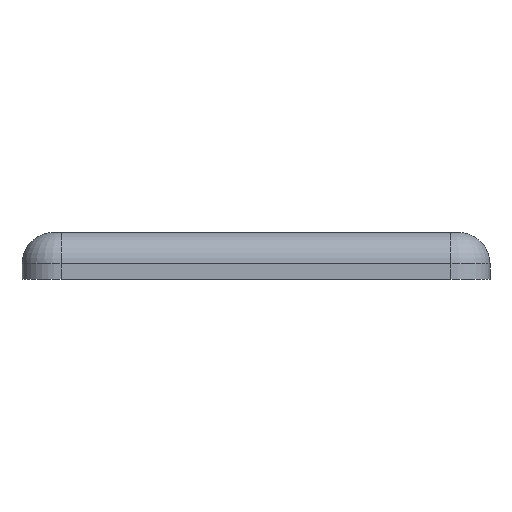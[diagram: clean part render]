
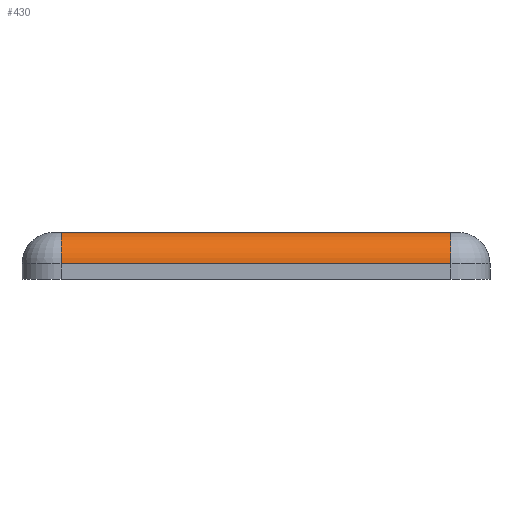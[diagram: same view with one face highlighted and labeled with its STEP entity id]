
A CAD part, front view. The second image highlights one B-rep face of the part: STEP entity #430.
In plain terms, the highlighted cylindrical face has radius 2 mm (diameter 4 mm), a partial arc.
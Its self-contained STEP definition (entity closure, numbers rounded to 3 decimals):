
#250 = EDGE_CURVE ( 'NONE', #434, #4314, #7528, .T. ) ;
#348 = FACE_OUTER_BOUND ( 'NONE', #1383, .T. ) ;
#430 = ADVANCED_FACE ( 'NONE', ( #348 ), #3017, .T. ) ;
#434 = VERTEX_POINT ( 'NONE', #6693 ) ;
#582 = VERTEX_POINT ( 'NONE', #8021 ) ;
#768 = CARTESIAN_POINT ( 'NONE',  ( -15., -15., 1. ) ) ;
#1179 = VECTOR ( 'NONE', #7634, 1000. ) ;
#1383 = EDGE_LOOP ( 'NONE', ( #6987, #7913, #1717, #2461 ) ) ;
#1717 = ORIENTED_EDGE ( 'NONE', *, *, #3543, .F. ) ;
#1899 = CARTESIAN_POINT ( 'NONE',  ( 0., -13., 3. ) ) ;
#2334 = AXIS2_PLACEMENT_3D ( 'NONE', #3259, #6440, #7790 ) ;
#2461 = ORIENTED_EDGE ( 'NONE', *, *, #9788, .F. ) ;
#2815 = CARTESIAN_POINT ( 'NONE',  ( 12.5, -13., 3. ) ) ;
#3017 = CYLINDRICAL_SURFACE ( 'NONE', #5289, 2. ) ;
#3196 = VERTEX_POINT ( 'NONE', #9335 ) ;
#3259 = CARTESIAN_POINT ( 'NONE',  ( -12.5, -13., 1. ) ) ;
#3515 = CARTESIAN_POINT ( 'NONE',  ( 0., -13., 1. ) ) ;
#3543 = EDGE_CURVE ( 'NONE', #582, #3196, #9999, .T. ) ;
#3797 = DIRECTION ( 'NONE',  ( 0., 0., -1. ) ) ;
#3943 = LINE ( 'NONE', #768, #4848 ) ;
#4314 = VERTEX_POINT ( 'NONE', #2815 ) ;
#4848 = VECTOR ( 'NONE', #10295, 1000. ) ;
#5215 = AXIS2_PLACEMENT_3D ( 'NONE', #10293, #5657, #9517 ) ;
#5289 = AXIS2_PLACEMENT_3D ( 'NONE', #3515, #10200, #3797 ) ;
#5657 = DIRECTION ( 'NONE',  ( -1., 0., 0. ) ) ;
#6440 = DIRECTION ( 'NONE',  ( -1., 0., 0. ) ) ;
#6693 = CARTESIAN_POINT ( 'NONE',  ( 12.5, -15., 1. ) ) ;
#6987 = ORIENTED_EDGE ( 'NONE', *, *, #250, .T. ) ;
#7528 = CIRCLE ( 'NONE', #5215, 2. ) ;
#7634 = DIRECTION ( 'NONE',  ( 1., 0., 0. ) ) ;
#7790 = DIRECTION ( 'NONE',  ( 0., 0., 1. ) ) ;
#7913 = ORIENTED_EDGE ( 'NONE', *, *, #10027, .F. ) ;
#8021 = CARTESIAN_POINT ( 'NONE',  ( -12.5, -15., 1. ) ) ;
#9335 = CARTESIAN_POINT ( 'NONE',  ( -12.5, -13., 3. ) ) ;
#9517 = DIRECTION ( 'NONE',  ( 0., 0., 1. ) ) ;
#9788 = EDGE_CURVE ( 'NONE', #434, #582, #3943, .T. ) ;
#9882 = LINE ( 'NONE', #1899, #1179 ) ;
#9999 = CIRCLE ( 'NONE', #2334, 2. ) ;
#10027 = EDGE_CURVE ( 'NONE', #3196, #4314, #9882, .T. ) ;
#10200 = DIRECTION ( 'NONE',  ( 1., 0., 0. ) ) ;
#10293 = CARTESIAN_POINT ( 'NONE',  ( 12.5, -13., 1. ) ) ;
#10295 = DIRECTION ( 'NONE',  ( -1., 0., 0. ) ) ;
